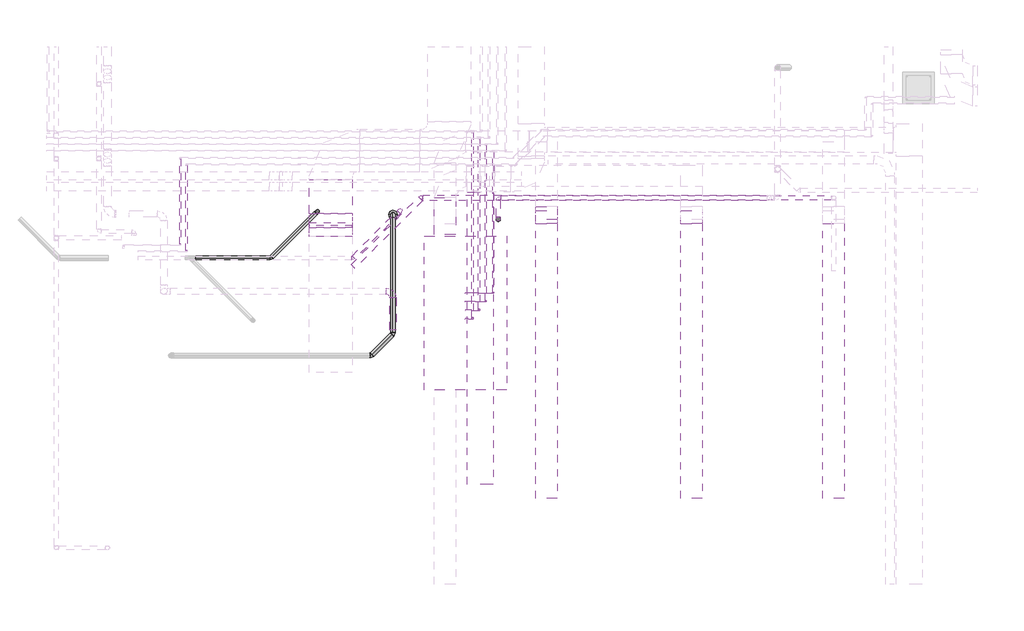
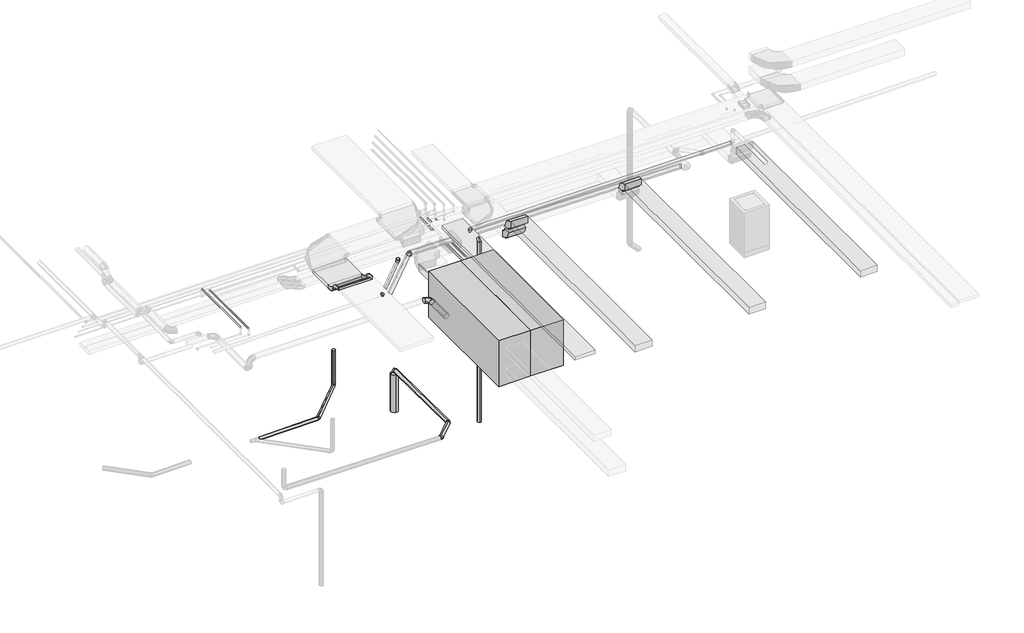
# One storey, part 2 of 10: 26 pipe segments, 19 pipe fittings, 7 duct segments, 4 duct fittings, 3 cable carrier segments, 2 cable carrier fittings, 1 proxy.
"""IFC4 building model written with IfcOpenShell, lengths in millimetres."""

from ifc_helpers import new_model, si_unit, point, frame, frame_2d, origin, place, context, project, spatial, polyline, circle_curve, trimmed, segment, composite_curve, outline, extrude, transform, mapped, element, save
from components import cl02_82b1bd92, m_codo_vertical_exterior_de_canal_8e3e9273, m_codo_vertical_interior_de_canal_8c56ce5f, m_codo_rectangular_radio_imp_1_w_f5781791, m_codo_redondo_ext_1_d_1a9a136b, pipe_fitting_aab77541, pipe_fitting_688cd524, pipe_fitting_67d104e7, pipe_fitting_371413ad, pipe_fitting_87aeffad, pipe_fitting_a0a0c51a, pipe_fitting_53320592, pipe_fitting_e662684b, pipe_fitting_a7675664, pipe_fitting_07a635c1, pipe_fitting_6566bc79, pipe_fitting_c06ac706

model = new_model("IFC4")

# Units and contexts
model_context = context("Model", 3, world=origin())
ifc_project = project(units=[si_unit("LENGTHUNIT", "METRE", prefix="MILLI")], contexts=[model_context])

# Site, building, storey
site = spatial("IfcSite", under=ifc_project)
building = spatial("IfcBuilding", under=site)
storey = spatial("IfcBuildingStorey", under=building, Name="Nivell 00 P00_PB", Elevation=6330.0)

# Proxy
placement = place(None, origin())
cl02_shape = cl02_82b1bd92(model_context)
element("IfcBuildingElementProxy", 1, Name="ARC_MDL_ME_Climatitzador 2P Mx1 r22 : CL02", ObjectType="ARC_MDL_ME_Climatitzador 2P Mx1 r22 : CL02", at=placement, inside=storey, context=model_context, shape_type="MappedRepresentation", body=[
    mapped(cl02_shape, transform((14473.0832095, -18751.7682253, 8930.0), x_axis=(0.0, 1.0, 0.0), y_axis=(-1.0, 0.0, 0.0), z_axis=(0.0, 0.0, 1.0))),
])

# Cable carrier fittings
m_codo_vertical_exterior_de_canal_shape = m_codo_vertical_exterior_de_canal_8e3e9273(model_context)
element("IfcCableCarrierFitting", 2, ObjectType="M_Codo vertical exterior de canal : Gasos", at=placement, inside=storey, context=model_context, shape_type="MappedRepresentation", body=[
    mapped(m_codo_vertical_exterior_de_canal_shape, transform((11819.6653746, -16830.8502487, 10760.0), x_axis=(0.0, 1.0, 0.0), y_axis=(0.0, 0.0, -1.0), z_axis=(-1.0, 0.0, 0.0))),
])
m_codo_vertical_interior_de_canal_shape = m_codo_vertical_interior_de_canal_8c56ce5f(model_context)
element("IfcCableCarrierFitting", 3, ObjectType="M_Codo vertical interior de canal : Gasos", at=placement, inside=storey, context=model_context, shape_type="MappedRepresentation", body=[
    mapped(m_codo_vertical_interior_de_canal_shape, transform((11819.6653746, -16580.8502487, 10510.0), x_axis=(0.0, 0.7071067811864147, -0.7071067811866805), y_axis=(0.0, 0.7071067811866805, 0.7071067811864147), z_axis=(1.0, 0.0, 0.0))),
])

# Cable carrier segments
element("IfcCableCarrierSegment", 4, ObjectType="Gasos", at=placement, inside=storey, context=model_context, shape_type="SweptSolid", body=[
    extrude(outline(polyline([(0.0, -1000.0), (0.0, 0.0), (79.2893218, 0.0), (79.2893218, -1000.0), (0.0, -1000.0)])), frame((11319.6653746, -16769.2385963, 10627.6776695), z_axis=(0.0, 0.7071067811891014, 0.7071067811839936), x_axis=(0.0, 0.7071067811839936, -0.7071067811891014)), (0.0, 0.0, 1.0), 100.0),
])
element("IfcCableCarrierSegment", 5, ObjectType="Gasos", at=placement, inside=storey, context=model_context, shape_type="SweptSolid", body=[
    extrude(outline(polyline([(12319.6653746, -16443.7182143), (11319.6653746, -16443.7182143), (11319.6653746, -15645.900755), (12319.6653746, -15645.900755), (12319.6653746, -16443.7182143)])), frame((0.0, 0.0, 10460.0), z_axis=(0.0, 0.0, 1.0), x_axis=(1.0, 0.0, 0.0)), (0.0, 0.0, 1.0), 100.0),
])
element("IfcCableCarrierSegment", 6, ObjectType="EL", at=placement, inside=storey, context=model_context, shape_type="SweptSolid", body=[
    extrude(outline(polyline([(15594.9823979, -22738.0283254), (14994.9823979, -22738.0283254), (14994.9823979, -15938.881498), (15594.9823979, -15938.881498), (15594.9823979, -22738.0283254)])), frame((0.0, 0.0, 10730.0), z_axis=(0.0, 0.0, 1.0), x_axis=(1.0, 0.0, 0.0)), (0.0, 0.0, 1.0), 100.0),
])

# Duct fittings
m_codo_rectangular_radio_imp_1_w_shape = m_codo_rectangular_radio_imp_1_w_f5781791(model_context)
element("IfcDuctFitting", 7, ObjectType="M_Codo rectangular - Radio : IMP_1 W", at=placement, inside=storey, context=model_context, shape_type="MappedRepresentation", body=[
    mapped(m_codo_rectangular_radio_imp_1_w_shape, transform((16840.3123465, -16473.9966623, 10730.0), x_axis=(0.0, 1.0, 0.0), y_axis=(0.0, 0.0, -1.0), z_axis=(-1.0, 0.0, 0.0))),
])
element("IfcDuctFitting", 8, ObjectType="M_Codo rectangular - Radio : IMP_1 W", at=placement, inside=storey, context=model_context, shape_type="MappedRepresentation", body=[
    mapped(m_codo_rectangular_radio_imp_1_w_shape, transform((16840.3123465, -16473.9966623, 10230.0), x_axis=(0.0, 0.0, -1.0), y_axis=(0.0, 1.0, 0.0), z_axis=(1.0, 0.0, 0.0))),
])
element("IfcDuctFitting", 9, ObjectType="M_Codo rectangular - Radio : IMP_1 W", at=placement, inside=storey, context=model_context, shape_type="MappedRepresentation", body=[
    mapped(m_codo_rectangular_radio_imp_1_w_shape, transform((20213.0832095, -16473.9966623, 10730.0), x_axis=(0.0, 1.0, 0.0), y_axis=(0.0, 0.0, -1.0), z_axis=(-1.0, 0.0, 0.0))),
])
m_codo_redondo_ext_1_d_shape = m_codo_redondo_ext_1_d_1a9a136b(model_context)
element("IfcDuctFitting", 10, ObjectType="M_Codo redondo : EXT_1 D", at=placement, inside=storey, context=model_context, shape_type="MappedRepresentation", body=[
    mapped(m_codo_redondo_ext_1_d_shape, transform((13265.9409138, -18247.0106354, 10535.0), x_axis=(2.0856058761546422e-05, 0.9999999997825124, 0.0), y_axis=(-0.9999999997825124, 2.0856058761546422e-05, 0.0), z_axis=(0.0, 0.0, 1.0))),
])

# Duct segments
element("IfcDuctSegment", 11, ObjectType="EXT_Acer Galvanitzat - Rígid", at=placement, inside=storey, context=model_context, shape_type="SweptSolid", body=[
    extrude(outline(composite_curve([segment(trimmed(circle_curve(frame_2d((0.0, -74.9999999)), 75.0), [point((0.0, 0.0))], [point((75.0, -74.9999999))], False, "CARTESIAN"), True, "CONTINUOUS"), segment(trimmed(circle_curve(frame_2d((0.0, -74.9999999)), 75.0), [point((75.0, -74.9999999))], [point((0.0, -149.9999999))], False, "CARTESIAN"), True, "CONTINUOUS"), segment(trimmed(circle_curve(frame_2d((0.0, -74.9999999)), 75.0), [point((0.0, -149.9999999))], [point((-75.0, -74.9999999))], False, "CARTESIAN"), True, "CONTINUOUS"), segment(trimmed(circle_curve(frame_2d((0.0, -74.9999999)), 75.0), [point((-75.0, -74.9999999))], [point((0.0, 0.0))], False, "CARTESIAN"), True, "CONTINUOUS")], self_intersect=False)), frame((13190.9221434, -19147.0091154, 10535.0), z_axis=(2.0856058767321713e-05, 0.9999999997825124, 0.0), x_axis=(0.0, 0.0, -1.0)), (0.0, 0.0, 1.0), 749.9968716),
])
element("IfcDuctSegment", 12, ObjectType="IMP_Fibra de vidre rígida", at=placement, inside=storey, context=model_context, shape_type="SweptSolid", body=[
    extrude(outline(polyline([(16590.3123465, -16673.9966623), (17090.3123465, -16673.9966623), (17090.3123465, -23063.9966623), (16590.3123465, -23063.9966623), (16590.3123465, -16673.9966623)])), frame((0.0, 0.0, 10630.0), z_axis=(0.0, 0.0, 1.0), x_axis=(1.0, 0.0, 0.0)), (0.0, 0.0, 1.0), 200.0),
])
element("IfcDuctSegment", 13, ObjectType="IMP_Fibra de vidre rígida", at=placement, inside=storey, context=model_context, shape_type="SweptSolid", body=[
    extrude(outline(polyline([(14223.0832095, -16063.9966623), (14723.0832095, -16063.9966623), (14723.0832095, -16923.9966623), (14223.0832095, -16923.9966623), (14223.0832095, -16063.9966623)])), frame((0.0, 0.0, 9763.8720732), z_axis=(0.0, 0.0, 1.0), x_axis=(1.0, 0.0, 0.0)), (0.0, 0.0, 1.0), 200.0),
])
element("IfcDuctSegment", 14, ObjectType="IMP_Fibra de vidre rígida", at=placement, inside=storey, context=model_context, shape_type="SweptSolid", body=[
    extrude(outline(polyline([(17090.3123465, -16373.9966623), (17090.3123465, -16573.9966623), (16590.3123465, -16573.9966623), (16590.3123465, -16373.9966623), (17090.3123465, -16373.9966623)])), frame((0.0, 0.0, 10430.0), z_axis=(0.0, 0.0, 1.0), x_axis=(1.0, 0.0, 0.0)), (0.0, 0.0, 1.0), 100.0),
])
element("IfcDuctSegment", 15, ObjectType="IMP_Fibra de vidre rígida", at=placement, inside=storey, context=model_context, shape_type="SweptSolid", body=[
    extrude(outline(polyline([(19963.0832095, -16673.9966623), (20463.0832095, -16673.9966623), (20463.0832095, -23063.9966623), (19963.0832095, -23063.9966623), (19963.0832095, -16673.9966623)])), frame((0.0, 0.0, 10630.0), z_axis=(0.0, 0.0, 1.0), x_axis=(1.0, 0.0, 0.0)), (0.0, 0.0, 1.0), 200.0),
])
element("IfcDuctSegment", 16, ObjectType="IMP_Fibra de vidre rígida", at=placement, inside=storey, context=model_context, shape_type="SweptSolid", body=[
    extrude(outline(polyline([(20463.0832095, -16373.9966623), (20463.0832095, -16573.9966623), (19963.0832095, -16573.9966623), (19963.0832095, -16373.9966623), (20463.0832095, -16373.9966623)])), frame((0.0, 0.0, 10430.0), z_axis=(0.0, 0.0, 1.0), x_axis=(1.0, 0.0, 0.0)), (0.0, 0.0, 1.0), 100.0),
])
element("IfcDuctSegment", 17, ObjectType="IMP_Fibra de vidre rígida", at=placement, inside=storey, context=model_context, shape_type="SweptSolid", body=[
    extrude(outline(polyline([(23264.812091, -16673.9966623), (23764.812091, -16673.9966623), (23764.812091, -23063.9966623), (23264.812091, -23063.9966623), (23264.812091, -16673.9966623)])), frame((0.0, 0.0, 10630.0), z_axis=(0.0, 0.0, 1.0), x_axis=(1.0, 0.0, 0.0)), (0.0, 0.0, 1.0), 200.0),
])

# Pipe fittings
pipe_fitting_shape = pipe_fitting_aab77541(model_context)
element("IfcPipeFitting", 18, ObjectType="M_Codo - Genérico : Estándar", at=placement, inside=storey, context=model_context, shape_type="MappedRepresentation", body=[
    mapped(pipe_fitting_shape, transform((13265.9546257, -16465.4150371, 7243.5599446), x_axis=(0.0, 0.9999500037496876, -0.009999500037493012), y_axis=(0.0, -0.009999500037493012, -0.9999500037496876), z_axis=(-1.0, 0.0, 0.0))),
])
pipe_fitting_2_shape = pipe_fitting_688cd524(model_context)
element("IfcPipeFitting", 19, ObjectType="M_Codo - Genérico : Estándar", at=placement, inside=storey, context=model_context, shape_type="MappedRepresentation", body=[
    mapped(pipe_fitting_2_shape, transform((11510.2075907, -16388.8573133, 7330.0), x_axis=(0.0, 0.0, -1.0), y_axis=(-0.7070891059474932, -0.7071244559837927, 0.0), z_axis=(-0.7071244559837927, 0.7070891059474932, 0.0))),
])
pipe_fitting_3_shape = pipe_fitting_67d104e7(model_context)
element("IfcPipeFitting", 20, ObjectType="M_Codo - Genérico : Estándar", at=placement, inside=storey, context=model_context, shape_type="MappedRepresentation", body=[
    mapped(pipe_fitting_3_shape, transform((12757.9332804, -19743.951846, 7278.449606), x_axis=(-0.7070714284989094, -0.707071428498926, 0.009999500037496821), y_axis=(0.7070714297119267, -0.7071300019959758, -0.004141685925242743), z_axis=(0.009999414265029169, 0.004141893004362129, 0.9999414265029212))),
])
element("IfcPipeFitting", 21, ObjectType="M_Codo - Genérico : Estándar", at=placement, inside=storey, context=model_context, shape_type="MappedRepresentation", body=[
    mapped(pipe_fitting_3_shape, transform((13265.9546257, -19235.9305007, 7271.2650993), x_axis=(0.0, -0.9999500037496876, 0.009999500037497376), y_axis=(0.9999914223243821, -4.1416859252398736e-05, -0.004141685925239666), z_axis=(0.00414189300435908, 0.009999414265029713, 0.9999414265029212))),
])
pipe_fitting_4_shape = pipe_fitting_371413ad(model_context)
element("IfcPipeFitting", 22, ObjectType="M_Codo - Genérico : Estándar", at=placement, inside=storey, context=model_context, shape_type="MappedRepresentation", body=[
    mapped(pipe_fitting_4_shape, transform((15116.8432323, -18885.7687528, 10210.0), x_axis=(0.0, -1.0, 0.0), y_axis=(0.0, 0.0, -1.0), z_axis=(1.0, 0.0, 0.0))),
])
element("IfcPipeFitting", 23, ObjectType="M_Codo - Genérico : Estándar", at=placement, inside=storey, context=model_context, shape_type="MappedRepresentation", body=[
    mapped(pipe_fitting_4_shape, transform((15116.8432323, -18885.7687528, 9810.0), x_axis=(0.0, 0.0, -1.0), y_axis=(-1.0, 0.0, 0.0), z_axis=(0.0, 1.0, 0.0))),
])
element("IfcPipeFitting", 24, ObjectType="M_Codo - Genérico : Estándar", at=placement, inside=storey, context=model_context, shape_type="MappedRepresentation", body=[
    mapped(pipe_fitting_4_shape, transform((15266.8516957, -18685.7603987, 10210.0), x_axis=(0.0, -1.0, 0.0), y_axis=(0.0, 0.0, -1.0), z_axis=(1.0, 0.0, 0.0))),
])
element("IfcPipeFitting", 25, ObjectType="M_Codo - Genérico : Estándar", at=placement, inside=storey, context=model_context, shape_type="MappedRepresentation", body=[
    mapped(pipe_fitting_4_shape, transform((15266.8516957, -18685.7603987, 9810.0), x_axis=(0.0, 0.0, -1.0), y_axis=(-1.0, 0.0, 0.0), z_axis=(0.0, 1.0, 0.0))),
])
pipe_fitting_5_shape = pipe_fitting_87aeffad(model_context)
element("IfcPipeFitting", 26, ObjectType="M_Codo - Genérico : Estándar", at=placement, inside=storey, context=model_context, shape_type="MappedRepresentation", body=[
    mapped(pipe_fitting_5_shape, transform((15714.9203808, -16570.9933177, 10530.0), x_axis=(0.0, 0.0, 1.0), y_axis=(0.0, 1.0, 0.0), z_axis=(-1.0, 0.0, 0.0))),
])
element("IfcPipeFitting", 27, ObjectType="M_Codo - Genérico : Estándar", at=placement, inside=storey, context=model_context, shape_type="MappedRepresentation", body=[
    mapped(pipe_fitting_5_shape, transform((15714.9203808, -16070.9933177, 10530.0), x_axis=(-1.0, 0.0, 0.0), y_axis=(0.0, -1.0, 0.0), z_axis=(0.0, 0.0, 1.0))),
])
pipe_fitting_6_shape = pipe_fitting_a0a0c51a(model_context)
element("IfcPipeFitting", 28, ObjectType="M_Codo - Genérico : Estándar", at=placement, inside=storey, context=model_context, shape_type="MappedRepresentation", body=[
    mapped(pipe_fitting_6_shape, transform((12331.4410732, -17470.9564218, 10528.557319), x_axis=(0.9999500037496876, 0.0, 0.009999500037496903), y_axis=(7.650899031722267e-05, 0.9999707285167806, -0.007650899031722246), z_axis=(-0.009999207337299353, 0.007651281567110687, 0.9999207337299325))),
])
pipe_fitting_7_shape = pipe_fitting_53320592(model_context)
element("IfcPipeFitting", 29, ObjectType="M_Codo - Genérico : Estándar", at=placement, inside=storey, context=model_context, shape_type="MappedRepresentation", body=[
    mapped(pipe_fitting_7_shape, transform((15426.8566058, -18485.752361, 9817.5000111), x_axis=(0.0, 0.0, -1.0), y_axis=(-1.0, 0.0, 0.0), z_axis=(0.0, 1.0, 0.0))),
])
pipe_fitting_8_shape = pipe_fitting_e662684b(model_context)
element("IfcPipeFitting", 30, ObjectType="M_Codo - Genérico : Estándar", at=placement, inside=storey, context=model_context, shape_type="MappedRepresentation", body=[
    mapped(pipe_fitting_8_shape, transform((13435.6396058, -16366.7578892, 10543.9920707), x_axis=(0.7070714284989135, 0.7070714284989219, 0.00999950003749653), y_axis=(-0.007063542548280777, -0.007077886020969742, 0.9999500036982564), z_axis=(0.7071068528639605, -0.7071067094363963, -1.014185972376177e-05))),
])
pipe_fitting_9_shape = pipe_fitting_a7675664(model_context)
element("IfcPipeFitting", 31, ObjectType="M_Codo - Genérico : Estándar", at=placement, inside=storey, context=model_context, shape_type="MappedRepresentation", body=[
    mapped(pipe_fitting_9_shape, transform((10431.3601722, -17467.7582255, 7314.8178624), x_axis=(0.9999500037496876, 0.0, 0.009999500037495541), y_axis=(-4.141832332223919e-05, 0.9999914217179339, 0.004141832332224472), z_axis=(-0.009999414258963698, -0.0041420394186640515, 0.9999414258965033))),
])
pipe_fitting_10_shape = pipe_fitting_07a635c1(model_context)
element("IfcPipeFitting", 32, ObjectType="M_Transición - Genérica : Estándar", at=placement, inside=storey, context=model_context, shape_type="MappedRepresentation", body=[
    mapped(pipe_fitting_10_shape, transform((13265.9546257, -16465.4150371, 7181.2486728), x_axis=(0.0, 0.0, -1.0), y_axis=(-1.0, 0.0, 0.0), z_axis=(0.0, 1.0, 0.0))),
])
pipe_fitting_11_shape = pipe_fitting_6566bc79(model_context)
element("IfcPipeFitting", 33, ObjectType="M_Codo - Genérico : Estándar", at=placement, inside=storey, context=model_context, shape_type="MappedRepresentation", body=[
    mapped(pipe_fitting_11_shape, transform((13928.6373804, -16076.7816597, 10408.054314), x_axis=(-0.9999500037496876, 0.0, 0.009999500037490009), y_axis=(4.142764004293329e-05, -0.9999914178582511, 0.004142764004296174), z_axis=(0.009999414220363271, 0.004142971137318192, 0.9999414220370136))),
])
pipe_fitting_12_shape = pipe_fitting_c06ac706(model_context)
element("IfcPipeFitting", 34, ObjectType="M_Codo - Genérico : Estándar", at=placement, inside=storey, context=model_context, shape_type="MappedRepresentation", body=[
    mapped(pipe_fitting_12_shape, transform((15426.8566058, -18485.752361, 10217.5), x_axis=(0.0, -1.0, 0.0), y_axis=(0.0, 0.0, -1.0), z_axis=(1.0, 0.0, 0.0))),
])
element("IfcPipeFitting", 35, ObjectType="M_Codo - Genérico : Estándar", at=placement, inside=storey, context=model_context, shape_type="MappedRepresentation", body=[
    mapped(pipe_fitting_12_shape, transform((15596.8610691, -18285.6342839, 10217.4999994), x_axis=(0.0, -1.0, 0.0), y_axis=(0.0, 0.0, -1.0), z_axis=(1.0, 0.0, 0.0))),
])
element("IfcPipeFitting", 36, ObjectType="M_Codo - Genérico : Estándar", at=placement, inside=storey, context=model_context, shape_type="MappedRepresentation", body=[
    mapped(pipe_fitting_12_shape, transform((15596.8610691, -18285.6342839, 9817.5), x_axis=(0.0, 0.0, -1.0), y_axis=(-1.0, 0.0, 0.0), z_axis=(0.0, 1.0, 0.0))),
])

# Pipe segments
element("IfcPipeSegment", 37, ObjectType="PVC_Baixant", at=placement, inside=storey, context=model_context, shape_type="SweptSolid", body=[
    extrude(outline(composite_curve([segment(trimmed(circle_curve(frame_2d((0.0, -45.0)), 45.0), [point((-44.9977506, -44.5500675))], [point((0.4499325, -0.0022495))], False, "CARTESIAN"), True, "CONTINUOUS"), segment(trimmed(circle_curve(frame_2d((0.0, -45.0)), 45.0), [point((0.4499325, -0.0022495))], [point((44.9977506, -45.4499325))], False, "CARTESIAN"), True, "CONTINUOUS"), segment(trimmed(circle_curve(frame_2d((0.0, -45.0)), 45.0), [point((44.9977506, -45.4499325))], [point((-0.4499325, -89.9977507))], False, "CARTESIAN"), True, "CONTINUOUS"), segment(trimmed(circle_curve(frame_2d((0.0, -45.0)), 45.0), [point((-0.4499325, -89.9977507))], [point((-44.9977506, -44.5500675))], False, "CARTESIAN"), True, "CONTINUOUS")], self_intersect=False)), frame((10446.7026087, -17451.7787054, 7270.0393417), z_axis=(0.7070537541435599, 0.7070891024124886, 0.009999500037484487), x_axis=(0.7071598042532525, -0.7069830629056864, -0.009998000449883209)), (0.0, 0.0, 1.0), 1452.2686555),
])
element("IfcPipeSegment", 38, ObjectType="PVC_Baixant", at=placement, inside=storey, context=model_context, shape_type="SweptSolid", body=[
    extrude(outline(composite_curve([segment(trimmed(circle_curve(frame_2d((11510.2075907, -16388.8573133)), 45.0), [point((11465.2075907, -16388.8573133))], [point((11510.2075907, -16343.8573133))], False, "CARTESIAN"), True, "CONTINUOUS"), segment(trimmed(circle_curve(frame_2d((11510.2075907, -16388.8573133)), 45.0), [point((11510.2075907, -16343.8573133))], [point((11555.2075907, -16388.8573133))], False, "CARTESIAN"), True, "CONTINUOUS"), segment(trimmed(circle_curve(frame_2d((11510.2075907, -16388.8573133)), 45.0), [point((11555.2075907, -16388.8573133))], [point((11510.2075907, -16433.8573133))], False, "CARTESIAN"), True, "CONTINUOUS"), segment(trimmed(circle_curve(frame_2d((11510.2075907, -16388.8573133)), 45.0), [point((11510.2075907, -16433.8573133))], [point((11465.2075907, -16388.8573133))], False, "CARTESIAN"), True, "CONTINUOUS")], self_intersect=False)), frame((0.0, 0.0, 7381.8662443), z_axis=(0.0, 0.0, 1.0), x_axis=(1.0, 0.0, 0.0)), (0.0, 0.0, 1.0), 1048.1337557),
])
element("IfcPipeSegment", 39, ObjectType="AN_CI", at=placement, inside=storey, context=model_context, shape_type="SweptSolid", body=[
    extrude(outline(composite_curve([segment(trimmed(circle_curve(frame_2d((10530.0, 15714.9203808)), 50.8), [point((10530.0, 15765.7203808))], [point((10580.8, 15714.9203808))], False, "CARTESIAN"), True, "CONTINUOUS"), segment(trimmed(circle_curve(frame_2d((10530.0, 15714.9203808)), 50.8), [point((10580.8, 15714.9203808))], [point((10530.0, 15664.1203808))], False, "CARTESIAN"), True, "CONTINUOUS"), segment(trimmed(circle_curve(frame_2d((10530.0, 15714.9203808)), 50.8), [point((10530.0, 15664.1203808))], [point((10479.2, 15714.9203808))], False, "CARTESIAN"), True, "CONTINUOUS"), segment(trimmed(circle_curve(frame_2d((10530.0, 15714.9203808)), 50.8), [point((10479.2, 15714.9203808))], [point((10530.0, 15765.7203808))], False, "CARTESIAN"), True, "CONTINUOUS")], self_intersect=False)), frame((0.0, -16518.6058177, 0.0), z_axis=(0.0, 1.0, 0.0), x_axis=(0.0, 0.0, 1.0)), (0.0, 0.0, 1.0), 395.225),
])
element("IfcPipeSegment", 40, ObjectType="AN_CI", at=placement, inside=storey, context=model_context, shape_type="SweptSolid", body=[
    extrude(outline(composite_curve([segment(trimmed(circle_curve(frame_2d((15714.9203808, -16570.9933177)), 50.8), [point((15664.1203808, -16570.9933177))], [point((15714.9203808, -16520.1933177))], False, "CARTESIAN"), True, "CONTINUOUS"), segment(trimmed(circle_curve(frame_2d((15714.9203808, -16570.9933177)), 50.8), [point((15714.9203808, -16520.1933177))], [point((15765.7203808, -16570.9933177))], False, "CARTESIAN"), True, "CONTINUOUS"), segment(trimmed(circle_curve(frame_2d((15714.9203808, -16570.9933177)), 50.8), [point((15765.7203808, -16570.9933177))], [point((15714.9203808, -16621.7933177))], False, "CARTESIAN"), True, "CONTINUOUS"), segment(trimmed(circle_curve(frame_2d((15714.9203808, -16570.9933177)), 50.8), [point((15714.9203808, -16621.7933177))], [point((15664.1203808, -16570.9933177))], False, "CARTESIAN"), True, "CONTINUOUS")], self_intersect=False)), frame((0.0, 0.0, 4830.0), z_axis=(0.0, 0.0, 1.0), x_axis=(1.0, 0.0, 0.0)), (0.0, 0.0, 1.0), 5647.6125),
])
element("IfcPipeSegment", 41, ObjectType="PVC_Baixant", at=placement, inside=storey, context=model_context, shape_type="SweptSolid", body=[
    extrude(outline(composite_curve([segment(trimmed(circle_curve(frame_2d((0.0, -45.0)), 45.0), [point((-44.9977503, -44.550045))], [point((0.4499551, -0.0022496))], False, "CARTESIAN"), True, "CONTINUOUS"), segment(trimmed(circle_curve(frame_2d((0.0, -45.0)), 45.0), [point((0.4499551, -0.0022496))], [point((44.9977505, -45.449955))], False, "CARTESIAN"), True, "CONTINUOUS"), segment(trimmed(circle_curve(frame_2d((0.0, -45.0)), 45.0), [point((44.9977505, -45.449955))], [point((-0.4499549, -89.9977504))], False, "CARTESIAN"), True, "CONTINUOUS"), segment(trimmed(circle_curve(frame_2d((0.0, -45.0)), 45.0), [point((-0.4499549, -89.9977504))], [point((-44.9977503, -44.550045))], False, "CARTESIAN"), True, "CONTINUOUS")], self_intersect=False)), frame((12346.7856008, -17454.9755616, 10483.597849), z_axis=(0.7070714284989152, 0.7070714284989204, 0.009999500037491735), x_axis=(0.7071421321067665, -0.7070007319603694, -0.009998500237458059)), (0.0, 0.0, 1.0), 1488.0836316),
])
element("IfcPipeSegment", 42, ObjectType="AN_CI", at=placement, inside=storey, context=model_context, shape_type="SweptSolid", body=[
    extrude(outline(composite_curve([segment(trimmed(circle_curve(frame_2d((-16070.9933177, 10530.0)), 50.8), [point((-16020.1933177, 10530.0))], [point((-16070.9933177, 10479.2))], False, "CARTESIAN"), True, "CONTINUOUS"), segment(trimmed(circle_curve(frame_2d((-16070.9933177, 10530.0)), 50.8), [point((-16070.9933177, 10479.2))], [point((-16121.7933177, 10530.0))], False, "CARTESIAN"), True, "CONTINUOUS"), segment(trimmed(circle_curve(frame_2d((-16070.9933177, 10530.0)), 50.8), [point((-16121.7933177, 10530.0))], [point((-16070.9933177, 10580.8))], False, "CARTESIAN"), True, "CONTINUOUS"), segment(trimmed(circle_curve(frame_2d((-16070.9933177, 10530.0)), 50.8), [point((-16070.9933177, 10580.8))], [point((-16020.1933177, 10530.0))], False, "CARTESIAN"), True, "CONTINUOUS")], self_intersect=False)), frame((15767.3078808, 0.0, 0.0), z_axis=(1.0, 0.0, 0.0), x_axis=(0.0, 1.0, 0.0)), (0.0, 0.0, 1.0), 7695.225),
])
element("IfcPipeSegment", 43, ObjectType="PPR_CLI_Aquatherm Blue Pipe", at=placement, inside=storey, context=model_context, shape_type="SweptSolid", body=[
    extrude(outline(composite_curve([segment(trimmed(circle_curve(frame_2d((-18285.6342839, 9817.5)), 12.5), [point((-18273.1342839, 9817.5))], [point((-18285.6342839, 9805.0))], False, "CARTESIAN"), True, "CONTINUOUS"), segment(trimmed(circle_curve(frame_2d((-18285.6342839, 9817.5)), 12.5), [point((-18285.6342839, 9805.0))], [point((-18298.1342839, 9817.5))], False, "CARTESIAN"), True, "CONTINUOUS"), segment(trimmed(circle_curve(frame_2d((-18285.6342839, 9817.5)), 12.5), [point((-18298.1342839, 9817.5))], [point((-18285.6342839, 9830.0))], False, "CARTESIAN"), True, "CONTINUOUS"), segment(trimmed(circle_curve(frame_2d((-18285.6342839, 9817.5)), 12.5), [point((-18285.6342839, 9830.0))], [point((-18273.1342839, 9817.5))], False, "CARTESIAN"), True, "CONTINUOUS")], self_intersect=False)), frame((14951.0832095, 0.0, 0.0), z_axis=(1.0, 0.0, 0.0), x_axis=(0.0, 1.0, 0.0)), (0.0, 0.0, 1.0), 625.1403596),
])
element("IfcPipeSegment", 44, ObjectType="PPR_CLI_Aquatherm Blue Pipe", at=placement, inside=storey, context=model_context, shape_type="SweptSolid", body=[
    extrude(outline(composite_curve([segment(trimmed(circle_curve(frame_2d((-18485.752361, 9817.5000105)), 12.5), [point((-18473.252361, 9817.5000105))], [point((-18485.752361, 9805.0000105))], False, "CARTESIAN"), True, "CONTINUOUS"), segment(trimmed(circle_curve(frame_2d((-18485.752361, 9817.5000105)), 12.5), [point((-18485.752361, 9805.0000105))], [point((-18498.252361, 9817.5000105))], False, "CARTESIAN"), True, "CONTINUOUS"), segment(trimmed(circle_curve(frame_2d((-18485.752361, 9817.5000105)), 12.5), [point((-18498.252361, 9817.5000105))], [point((-18485.752361, 9830.0000105))], False, "CARTESIAN"), True, "CONTINUOUS"), segment(trimmed(circle_curve(frame_2d((-18485.752361, 9817.5000105)), 12.5), [point((-18485.752361, 9830.0000105))], [point((-18473.252361, 9817.5000105))], False, "CARTESIAN"), True, "CONTINUOUS")], self_intersect=False)), frame((14951.0832095, 0.0, 0.0), z_axis=(1.0, 0.0, 0.0), x_axis=(0.0, 1.0, 0.0)), (0.0, 0.0, 1.0), 455.1358968),
])
element("IfcPipeSegment", 45, ObjectType="PPR_CLI_Aquatherm Blue Pipe", at=placement, inside=storey, context=model_context, shape_type="SweptSolid", body=[
    extrude(outline(composite_curve([segment(trimmed(circle_curve(frame_2d((-18685.7603987, 9810.0)), 20.0), [point((-18665.7603987, 9810.0))], [point((-18685.7603987, 9790.0))], False, "CARTESIAN"), True, "CONTINUOUS"), segment(trimmed(circle_curve(frame_2d((-18685.7603987, 9810.0)), 20.0), [point((-18685.7603987, 9790.0))], [point((-18705.7603987, 9810.0))], False, "CARTESIAN"), True, "CONTINUOUS"), segment(trimmed(circle_curve(frame_2d((-18685.7603987, 9810.0)), 20.0), [point((-18705.7603987, 9810.0))], [point((-18685.7603987, 9830.0))], False, "CARTESIAN"), True, "CONTINUOUS"), segment(trimmed(circle_curve(frame_2d((-18685.7603987, 9810.0)), 20.0), [point((-18685.7603987, 9830.0))], [point((-18665.7603987, 9810.0))], False, "CARTESIAN"), True, "CONTINUOUS")], self_intersect=False)), frame((14951.0832095, 0.0, 0.0), z_axis=(1.0, 0.0, 0.0), x_axis=(0.0, 1.0, 0.0)), (0.0, 0.0, 1.0), 288.7809862),
])
element("IfcPipeSegment", 46, ObjectType="PPR_CLI_Aquatherm Blue Pipe", at=placement, inside=storey, context=model_context, shape_type="SweptSolid", body=[
    extrude(outline(composite_curve([segment(trimmed(circle_curve(frame_2d((-18885.7687528, 9810.0)), 20.0), [point((-18865.7687528, 9810.0))], [point((-18885.7687528, 9790.0))], False, "CARTESIAN"), True, "CONTINUOUS"), segment(trimmed(circle_curve(frame_2d((-18885.7687528, 9810.0)), 20.0), [point((-18885.7687528, 9790.0))], [point((-18905.7687528, 9810.0))], False, "CARTESIAN"), True, "CONTINUOUS"), segment(trimmed(circle_curve(frame_2d((-18885.7687528, 9810.0)), 20.0), [point((-18905.7687528, 9810.0))], [point((-18885.7687528, 9830.0))], False, "CARTESIAN"), True, "CONTINUOUS"), segment(trimmed(circle_curve(frame_2d((-18885.7687528, 9810.0)), 20.0), [point((-18885.7687528, 9830.0))], [point((-18865.7687528, 9810.0))], False, "CARTESIAN"), True, "CONTINUOUS")], self_intersect=False)), frame((14951.0832095, 0.0, 0.0), z_axis=(1.0, 0.0, 0.0), x_axis=(0.0, 1.0, 0.0)), (0.0, 0.0, 1.0), 138.7725228),
])
element("IfcPipeSegment", 47, ObjectType="PPR_CLI_Aquatherm Blue Pipe", at=placement, inside=storey, context=model_context, shape_type="SweptSolid", body=[
    extrude(outline(composite_curve([segment(trimmed(circle_curve(frame_2d((10217.5, 15426.8566058)), 12.5), [point((10217.5, 15414.3566058))], [point((10205.0, 15426.8566058))], False, "CARTESIAN"), True, "CONTINUOUS"), segment(trimmed(circle_curve(frame_2d((10217.5, 15426.8566058)), 12.5), [point((10205.0, 15426.8566058))], [point((10217.5, 15439.3566058))], False, "CARTESIAN"), True, "CONTINUOUS"), segment(trimmed(circle_curve(frame_2d((10217.5, 15426.8566058)), 12.5), [point((10217.5, 15439.3566058))], [point((10230.0, 15426.8566058))], False, "CARTESIAN"), True, "CONTINUOUS"), segment(trimmed(circle_curve(frame_2d((10217.5, 15426.8566058)), 12.5), [point((10230.0, 15426.8566058))], [point((10217.5, 15414.3566058))], False, "CARTESIAN"), True, "CONTINUOUS")], self_intersect=False)), frame((0.0, -18465.114861, 0.0), z_axis=(0.0, 1.0, 0.0), x_axis=(0.0, 0.0, 1.0)), (0.0, 0.0, 1.0), 3619.4685837),
])
element("IfcPipeSegment", 48, ObjectType="PPR_CLI_Aquatherm Blue Pipe", at=placement, inside=storey, context=model_context, shape_type="SweptSolid", body=[
    extrude(outline(composite_curve([segment(trimmed(circle_curve(frame_2d((10210.0, 15266.8516957)), 20.0), [point((10210.0, 15246.8516957))], [point((10190.0, 15266.8516957))], False, "CARTESIAN"), True, "CONTINUOUS"), segment(trimmed(circle_curve(frame_2d((10210.0, 15266.8516957)), 20.0), [point((10190.0, 15266.8516957))], [point((10210.0, 15286.8516957))], False, "CARTESIAN"), True, "CONTINUOUS"), segment(trimmed(circle_curve(frame_2d((10210.0, 15266.8516957)), 20.0), [point((10210.0, 15286.8516957))], [point((10230.0, 15266.8516957))], False, "CARTESIAN"), True, "CONTINUOUS"), segment(trimmed(circle_curve(frame_2d((10210.0, 15266.8516957)), 20.0), [point((10230.0, 15266.8516957))], [point((10210.0, 15246.8516957))], False, "CARTESIAN"), True, "CONTINUOUS")], self_intersect=False)), frame((0.0, -18658.7728987, 0.0), z_axis=(0.0, 1.0, 0.0), x_axis=(0.0, 0.0, 1.0)), (0.0, 0.0, 1.0), 3957.1774661),
])
element("IfcPipeSegment", 49, ObjectType="PPR_CLI_Aquatherm Blue Pipe", at=placement, inside=storey, context=model_context, shape_type="SweptSolid", body=[
    extrude(outline(composite_curve([segment(trimmed(circle_curve(frame_2d((10210.0, 15116.8432323)), 20.0), [point((10210.0, 15096.8432323))], [point((10190.0, 15116.8432323))], False, "CARTESIAN"), True, "CONTINUOUS"), segment(trimmed(circle_curve(frame_2d((10210.0, 15116.8432323)), 20.0), [point((10190.0, 15116.8432323))], [point((10210.0, 15136.8432323))], False, "CARTESIAN"), True, "CONTINUOUS"), segment(trimmed(circle_curve(frame_2d((10210.0, 15116.8432323)), 20.0), [point((10210.0, 15136.8432323))], [point((10230.0, 15116.8432323))], False, "CARTESIAN"), True, "CONTINUOUS"), segment(trimmed(circle_curve(frame_2d((10210.0, 15116.8432323)), 20.0), [point((10230.0, 15116.8432323))], [point((10210.0, 15096.8432323))], False, "CARTESIAN"), True, "CONTINUOUS")], self_intersect=False)), frame((0.0, -18858.7812528, 0.0), z_axis=(0.0, 1.0, 0.0), x_axis=(0.0, 0.0, 1.0)), (0.0, 0.0, 1.0), 4307.6587058),
])
element("IfcPipeSegment", 50, ObjectType="PPR_CLI_Aquatherm Blue Pipe", at=placement, inside=storey, context=model_context, shape_type="SweptSolid", body=[
    extrude(outline(composite_curve([segment(trimmed(circle_curve(frame_2d((10217.4999994, 15596.8610691)), 12.5), [point((10217.4999994, 15584.3610691))], [point((10204.9999994, 15596.8610691))], False, "CARTESIAN"), True, "CONTINUOUS"), segment(trimmed(circle_curve(frame_2d((10217.4999994, 15596.8610691)), 12.5), [point((10204.9999994, 15596.8610691))], [point((10217.4999994, 15609.3610691))], False, "CARTESIAN"), True, "CONTINUOUS"), segment(trimmed(circle_curve(frame_2d((10217.4999994, 15596.8610691)), 12.5), [point((10217.4999994, 15609.3610691))], [point((10229.9999994, 15596.8610691))], False, "CARTESIAN"), True, "CONTINUOUS"), segment(trimmed(circle_curve(frame_2d((10217.4999994, 15596.8610691)), 12.5), [point((10229.9999994, 15596.8610691))], [point((10217.4999994, 15584.3610691))], False, "CARTESIAN"), True, "CONTINUOUS")], self_intersect=False)), frame((0.0, -18264.9967839, 0.0), z_axis=(0.0, 1.0, 0.0), x_axis=(0.0, 0.0, 1.0)), (0.0, 0.0, 1.0), 3269.806922),
])
element("IfcPipeSegment", 51, ObjectType="AN_CI", at=placement, inside=storey, context=model_context, shape_type="SweptSolid", body=[
    extrude(outline(composite_curve([segment(trimmed(circle_curve(frame_2d((10713.15, 8320.3801213)), 16.85), [point((10713.15, 8337.2301213))], [point((10730.0, 8320.3801213))], False, "CARTESIAN"), True, "CONTINUOUS"), segment(trimmed(circle_curve(frame_2d((10713.15, 8320.3801213)), 16.85), [point((10730.0, 8320.3801213))], [point((10713.15, 8303.5301213))], False, "CARTESIAN"), True, "CONTINUOUS"), segment(trimmed(circle_curve(frame_2d((10713.15, 8320.3801213)), 16.85), [point((10713.15, 8303.5301213))], [point((10696.3, 8320.3801213))], False, "CARTESIAN"), True, "CONTINUOUS"), segment(trimmed(circle_curve(frame_2d((10713.15, 8320.3801213)), 16.85), [point((10696.3, 8320.3801213))], [point((10713.15, 8337.2301213))], False, "CARTESIAN"), True, "CONTINUOUS")], self_intersect=False)), frame((0.0, -17150.3760325, 0.0), z_axis=(0.0, 1.0, 0.0), x_axis=(0.0, 0.0, 1.0)), (0.0, 0.0, 1.0), 1985.6767457),
])
element("IfcPipeSegment", 52, ObjectType="AN_CI", at=placement, inside=storey, context=model_context, shape_type="SweptSolid", body=[
    extrude(outline(composite_curve([segment(trimmed(circle_curve(frame_2d((10713.15, 8470.3801213)), 16.85), [point((10713.15, 8453.5301213))], [point((10696.3, 8470.3801213))], False, "CARTESIAN"), True, "CONTINUOUS"), segment(trimmed(circle_curve(frame_2d((10713.15, 8470.3801213)), 16.85), [point((10696.3, 8470.3801213))], [point((10713.15, 8487.2301213))], False, "CARTESIAN"), True, "CONTINUOUS"), segment(trimmed(circle_curve(frame_2d((10713.15, 8470.3801213)), 16.85), [point((10713.15, 8487.2301213))], [point((10730.0, 8470.3801213))], False, "CARTESIAN"), True, "CONTINUOUS"), segment(trimmed(circle_curve(frame_2d((10713.15, 8470.3801213)), 16.85), [point((10730.0, 8470.3801213))], [point((10713.15, 8453.5301213))], False, "CARTESIAN"), True, "CONTINUOUS")], self_intersect=False)), frame((0.0, -17299.4237552, 0.0), z_axis=(0.0, 1.0, 0.0), x_axis=(0.0, 0.0, 1.0)), (0.0, 0.0, 1.0), 1984.7244683),
])
element("IfcPipeSegment", 53, ObjectType="PPR_CLI_Aquatherm Blue Pipe", at=placement, inside=storey, context=model_context, shape_type="SweptSolid", body=[
    extrude(outline(composite_curve([segment(trimmed(circle_curve(frame_2d((15116.8432323, -18885.7687528)), 20.0), [point((15136.8432323, -18885.7687528))], [point((15116.8432323, -18905.7687528))], False, "CARTESIAN"), True, "CONTINUOUS"), segment(trimmed(circle_curve(frame_2d((15116.8432323, -18885.7687528)), 20.0), [point((15116.8432323, -18905.7687528))], [point((15096.8432323, -18885.7687528))], False, "CARTESIAN"), True, "CONTINUOUS"), segment(trimmed(circle_curve(frame_2d((15116.8432323, -18885.7687528)), 20.0), [point((15096.8432323, -18885.7687528))], [point((15116.8432323, -18865.7687528))], False, "CARTESIAN"), True, "CONTINUOUS"), segment(trimmed(circle_curve(frame_2d((15116.8432323, -18885.7687528)), 20.0), [point((15116.8432323, -18865.7687528))], [point((15136.8432323, -18885.7687528))], False, "CARTESIAN"), True, "CONTINUOUS")], self_intersect=False)), frame((0.0, 0.0, 9836.9875), z_axis=(0.0, 0.0, 1.0), x_axis=(1.0, 0.0, 0.0)), (0.0, 0.0, 1.0), 346.025),
])
element("IfcPipeSegment", 54, ObjectType="PPR_CLI_Aquatherm Blue Pipe", at=placement, inside=storey, context=model_context, shape_type="SweptSolid", body=[
    extrude(outline(composite_curve([segment(trimmed(circle_curve(frame_2d((15266.8516957, -18685.7603987)), 20.0), [point((15286.8516957, -18685.7603987))], [point((15266.8516957, -18705.7603987))], False, "CARTESIAN"), True, "CONTINUOUS"), segment(trimmed(circle_curve(frame_2d((15266.8516957, -18685.7603987)), 20.0), [point((15266.8516957, -18705.7603987))], [point((15246.8516957, -18685.7603987))], False, "CARTESIAN"), True, "CONTINUOUS"), segment(trimmed(circle_curve(frame_2d((15266.8516957, -18685.7603987)), 20.0), [point((15246.8516957, -18685.7603987))], [point((15266.8516957, -18665.7603987))], False, "CARTESIAN"), True, "CONTINUOUS"), segment(trimmed(circle_curve(frame_2d((15266.8516957, -18685.7603987)), 20.0), [point((15266.8516957, -18665.7603987))], [point((15286.8516957, -18685.7603987))], False, "CARTESIAN"), True, "CONTINUOUS")], self_intersect=False)), frame((0.0, 0.0, 9836.9875), z_axis=(0.0, 0.0, 1.0), x_axis=(1.0, 0.0, 0.0)), (0.0, 0.0, 1.0), 346.025),
])
element("IfcPipeSegment", 55, ObjectType="PPR_CLI_Aquatherm Blue Pipe", at=placement, inside=storey, context=model_context, shape_type="SweptSolid", body=[
    extrude(outline(composite_curve([segment(trimmed(circle_curve(frame_2d((15426.8566058, -18485.752361)), 12.5), [point((15439.3566058, -18485.752361))], [point((15426.8566058, -18498.252361))], False, "CARTESIAN"), True, "CONTINUOUS"), segment(trimmed(circle_curve(frame_2d((15426.8566058, -18485.752361)), 12.5), [point((15426.8566058, -18498.252361))], [point((15414.3566058, -18485.752361))], False, "CARTESIAN"), True, "CONTINUOUS"), segment(trimmed(circle_curve(frame_2d((15426.8566058, -18485.752361)), 12.5), [point((15414.3566058, -18485.752361))], [point((15426.8566058, -18473.252361))], False, "CARTESIAN"), True, "CONTINUOUS"), segment(trimmed(circle_curve(frame_2d((15426.8566058, -18485.752361)), 12.5), [point((15426.8566058, -18473.252361))], [point((15439.3566058, -18485.752361))], False, "CARTESIAN"), True, "CONTINUOUS")], self_intersect=False)), frame((0.0, 0.0, 9838.1375105), z_axis=(0.0, 0.0, 1.0), x_axis=(1.0, 0.0, 0.0)), (0.0, 0.0, 1.0), 358.7249895),
])
element("IfcPipeSegment", 56, ObjectType="PPR_CLI_Aquatherm Blue Pipe", at=placement, inside=storey, context=model_context, shape_type="SweptSolid", body=[
    extrude(outline(composite_curve([segment(trimmed(circle_curve(frame_2d((15596.8610691, -18285.6342839)), 12.5), [point((15609.3610691, -18285.6342839))], [point((15596.8610691, -18298.1342839))], False, "CARTESIAN"), True, "CONTINUOUS"), segment(trimmed(circle_curve(frame_2d((15596.8610691, -18285.6342839)), 12.5), [point((15596.8610691, -18298.1342839))], [point((15584.3610691, -18285.6342839))], False, "CARTESIAN"), True, "CONTINUOUS"), segment(trimmed(circle_curve(frame_2d((15596.8610691, -18285.6342839)), 12.5), [point((15584.3610691, -18285.6342839))], [point((15596.8610691, -18273.1342839))], False, "CARTESIAN"), True, "CONTINUOUS"), segment(trimmed(circle_curve(frame_2d((15596.8610691, -18285.6342839)), 12.5), [point((15596.8610691, -18273.1342839))], [point((15609.3610691, -18285.6342839))], False, "CARTESIAN"), True, "CONTINUOUS")], self_intersect=False)), frame((0.0, 0.0, 9838.1375), z_axis=(0.0, 0.0, 1.0), x_axis=(1.0, 0.0, 0.0)), (0.0, 0.0, 1.0), 358.7249994),
])
element("IfcPipeSegment", 57, ObjectType="PVC_Baixant", at=placement, inside=storey, context=model_context, shape_type="SweptSolid", body=[
    extrude(outline(composite_curve([segment(trimmed(circle_curve(frame_2d((0.0, 62.5)), 62.5), [point((-62.4968778, 63.1247074))], [point((0.6247074, 124.9968778))], False, "CARTESIAN"), True, "CONTINUOUS"), segment(trimmed(circle_curve(frame_2d((0.0, 62.5)), 62.5), [point((0.6247074, 124.9968778))], [point((62.4968778, 61.8752925))], False, "CARTESIAN"), True, "CONTINUOUS"), segment(trimmed(circle_curve(frame_2d((0.0, 62.5)), 62.5), [point((62.4968778, 61.8752925))], [point((-0.6247075, 0.0031222))], False, "CARTESIAN"), True, "CONTINUOUS"), segment(trimmed(circle_curve(frame_2d((0.0, 62.5)), 62.5), [point((-0.6247075, 0.0031222))], [point((-62.4968778, 63.1247074))], False, "CARTESIAN"), True, "CONTINUOUS")], self_intersect=False)), frame((13910.2040103, -16096.1054505, 10345.8212958), z_axis=(-0.7069412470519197, -0.7072015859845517, 0.009999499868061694), x_axis=(0.7072722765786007, -0.7068705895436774, 0.009994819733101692)), (0.0, 0.0, 1.0), 2223.861224),
])
element("IfcPipeSegment", 58, ObjectType="PVC_Baixant", at=placement, inside=storey, context=model_context, shape_type="SweptSolid", body=[
    extrude(outline(composite_curve([segment(trimmed(circle_curve(frame_2d((0.0, -45.0)), 45.0), [point((0.0, 0.0))], [point((45.0, -45.0))], False, "CARTESIAN"), True, "CONTINUOUS"), segment(trimmed(circle_curve(frame_2d((0.0, -45.0)), 45.0), [point((45.0, -45.0))], [point((0.0, -90.0))], False, "CARTESIAN"), True, "CONTINUOUS"), segment(trimmed(circle_curve(frame_2d((0.0, -45.0)), 45.0), [point((0.0, -90.0))], [point((-45.0, -45.0))], False, "CARTESIAN"), True, "CONTINUOUS"), segment(trimmed(circle_curve(frame_2d((0.0, -45.0)), 45.0), [point((-45.0, -45.0))], [point((0.0, 0.0))], False, "CARTESIAN"), True, "CONTINUOUS")], self_intersect=False)), frame((8664.4240711, -17422.7582255, 7297.1485014), z_axis=(0.9999500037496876, 0.0, 0.009999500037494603), x_axis=(0.009999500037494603, 0.0, -0.9999500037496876)), (0.0, 0.0, 1.0), 1745.3253367),
])
element("IfcPipeSegment", 59, ObjectType="PVC_Baixant", at=placement, inside=storey, context=model_context, shape_type="SweptSolid", body=[
    extrude(outline(composite_curve([segment(trimmed(circle_curve(frame_2d((0.0, -55.0)), 55.0), [point((54.9972504, -55.549945))], [point((-0.5499451, -109.9972504))], False, "CARTESIAN"), True, "CONTINUOUS"), segment(trimmed(circle_curve(frame_2d((0.0, -55.0)), 55.0), [point((-0.5499451, -109.9972504))], [point((-54.9972505, -54.450055))], False, "CARTESIAN"), True, "CONTINUOUS"), segment(trimmed(circle_curve(frame_2d((0.0, -55.0)), 55.0), [point((-54.9972505, -54.450055))], [point((0.549945, -0.0027495))], False, "CARTESIAN"), True, "CONTINUOUS"), segment(trimmed(circle_curve(frame_2d((0.0, -55.0)), 55.0), [point((0.549945, -0.0027495))], [point((54.9972504, -55.549945))], False, "CARTESIAN"), True, "CONTINUOUS")], self_intersect=False)), frame((13247.5226601, -19253.5847267, 7326.5202674), z_axis=(-0.7070714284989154, -0.7070714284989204, 0.009999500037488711), x_axis=(0.7071421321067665, -0.7070007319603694, 0.009998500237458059)), (0.0, 0.0, 1.0), 666.35052),
])
element("IfcPipeSegment", 60, ObjectType="PVC_Baixant", at=placement, inside=storey, context=model_context, shape_type="SweptSolid", body=[
    extrude(outline(composite_curve([segment(trimmed(circle_curve(frame_2d((0.0, -55.0)), 55.0), [point((55.0, -55.0))], [point((0.0, -110.0))], False, "CARTESIAN"), True, "CONTINUOUS"), segment(trimmed(circle_curve(frame_2d((0.0, -55.0)), 55.0), [point((0.0, -110.0))], [point((-55.0, -55.0))], False, "CARTESIAN"), True, "CONTINUOUS"), segment(trimmed(circle_curve(frame_2d((0.0, -55.0)), 55.0), [point((-55.0, -55.0))], [point((0.0, 0.0))], False, "CARTESIAN"), True, "CONTINUOUS"), segment(trimmed(circle_curve(frame_2d((0.0, -55.0)), 55.0), [point((0.0, 0.0))], [point((55.0, -55.0))], False, "CARTESIAN"), True, "CONTINUOUS")], self_intersect=False)), frame((13265.9546257, -16527.173221, 7299.1802764), z_axis=(0.0, -0.9999500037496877, 0.009999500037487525), x_axis=(1.0, 0.0, 0.0)), (0.0, 0.0, 1.0), 2682.2746751),
])
element("IfcPipeSegment", 61, ObjectType="PVC_Baixant", at=placement, inside=storey, context=model_context, shape_type="SweptSolid", body=[
    extrude(outline(composite_curve([segment(trimmed(circle_curve(frame_2d((0.0, -99.9999999)), 100.0), [point((-100.0, -99.9999999))], [point((-1e-07, 0.0))], False, "CARTESIAN"), True, "CONTINUOUS"), segment(trimmed(circle_curve(frame_2d((0.0, -99.9999999)), 100.0), [point((-1e-07, 0.0))], [point((99.9999999, -99.9999999))], False, "CARTESIAN"), True, "CONTINUOUS"), segment(trimmed(circle_curve(frame_2d((0.0, -99.9999999)), 100.0), [point((99.9999999, -99.9999999))], [point((0.0, -199.9999999))], False, "CARTESIAN"), True, "CONTINUOUS"), segment(trimmed(circle_curve(frame_2d((0.0, -99.9999999)), 100.0), [point((0.0, -199.9999999))], [point((-100.0, -99.9999999))], False, "CARTESIAN"), True, "CONTINUOUS")], self_intersect=False)), frame((13265.9753892, -16565.3714916, 5960.3122271), z_axis=(-1.9481157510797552e-05, -1.5378000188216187e-05, 0.9999999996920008), x_axis=(-0.9999999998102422, 2.995790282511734e-10, -1.9481157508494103e-05)), (0.0, 0.0, 1.0), 1169.3411583),
])
element("IfcPipeSegment", 62, ObjectType="PVC_Baixant", at=placement, inside=storey, context=model_context, shape_type="SweptSolid", body=[
    extrude(outline(composite_curve([segment(trimmed(circle_curve(frame_2d((0.0, 62.5)), 62.5), [point((0.0, 125.0))], [point((62.5, 62.5))], False, "CARTESIAN"), True, "CONTINUOUS"), segment(trimmed(circle_curve(frame_2d((0.0, 62.5)), 62.5), [point((62.5, 62.5))], [point((0.0, 0.0))], False, "CARTESIAN"), True, "CONTINUOUS"), segment(trimmed(circle_curve(frame_2d((0.0, 62.5)), 62.5), [point((0.0, 0.0))], [point((-62.5, 62.5))], False, "CARTESIAN"), True, "CONTINUOUS"), segment(trimmed(circle_curve(frame_2d((0.0, 62.5)), 62.5), [point((-62.5, 62.5))], [point((0.0, 125.0))], False, "CARTESIAN"), True, "CONTINUOUS")], self_intersect=False)), frame((21967.4230836, -16139.2816597, 10327.666457), z_axis=(-0.9999500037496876, 0.0, 0.009999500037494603), x_axis=(0.009999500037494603, 0.0, 0.9999500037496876)), (0.0, 0.0, 1.0), 8009.5912807),
])

save(model, "model.ifc")
